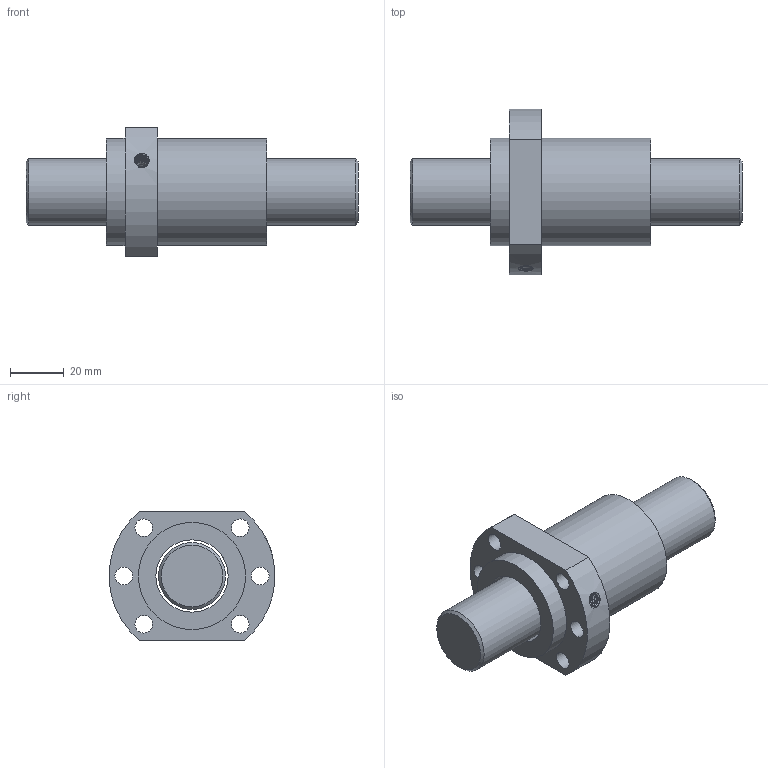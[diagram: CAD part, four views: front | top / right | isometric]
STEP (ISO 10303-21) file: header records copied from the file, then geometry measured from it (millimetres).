
FILE_DESCRIPTION (( 'STEP AP203' ), '1' );
FILE_NAME ('SFA2525-1.8.STEP', '2023-08-16T05:23:15', ( '' ), ( '' ), 'SwSTEP 2.0', 'SolidWorks 2022', '' );
FILE_SCHEMA (( 'CONFIG_CONTROL_DESIGN' ));
Length unit declared in the file: millimetre
Products named in the file (1): SFA2525-1.8
Bounding box: 124 x 61.8 x 48 mm (x, y, z)
Volume: 115717.8 mm3; surface area: 29528 mm2
Topology: 2 solids, 2 shells, 30 faces, 70 edges, 46 vertices
Faces by surface type: cylinder 16, plane 9, cone 3, bspline 2
Full cylindrical faces by diameter (mm): 4 x1, 4.917 x1, 6.6 x6, 25 x1, 27 x1, 40 x2
Entity records: 2606 total; most frequent: CARTESIAN_POINT 1906, DIRECTION 128, ORIENTED_EDGE 100, EDGE_LOOP 63, AXIS2_PLACEMENT_3D 60, EDGE_CURVE 50, FACE_OUTER_BOUND 42, VERTEX_POINT 41
